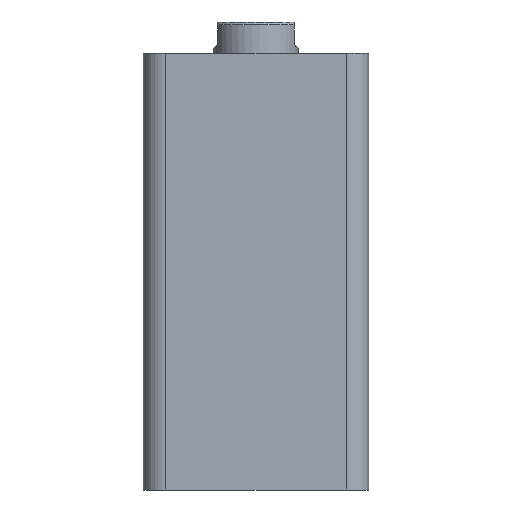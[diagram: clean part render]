
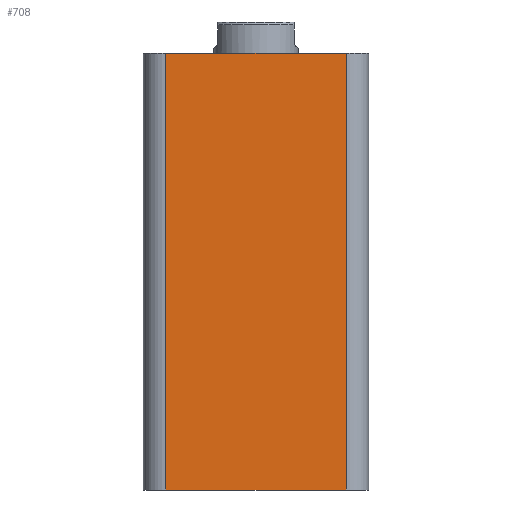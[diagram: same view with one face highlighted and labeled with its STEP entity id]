
A CAD part, front view. The second image highlights one B-rep face of the part: STEP entity #708.
In plain terms, the highlighted planar face has unit normal (0, -1, 0).
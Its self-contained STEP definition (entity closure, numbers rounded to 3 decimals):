
#312 = VECTOR ( 'NONE', #2136, 1000. ) ;
#314 = VECTOR ( 'NONE', #2138, 1000. ) ;
#315 = LINE ( 'NONE', #2137, #312 ) ;
#316 = VECTOR ( 'NONE', #2139, 1000. ) ;
#318 = VECTOR ( 'NONE', #2141, 1000. ) ;
#319 = LINE ( 'NONE', #2140, #316 ) ;
#321 = LINE ( 'NONE', #2143, #318 ) ;
#332 = LINE ( 'NONE', #2156, #314 ) ;
#405 = FACE_OUTER_BOUND ( 'NONE', #1260, .T. ) ;
#521 = VERTEX_POINT ( 'NONE', #1021 ) ;
#533 = VERTEX_POINT ( 'NONE', #1002 ) ;
#610 = VERTEX_POINT ( 'NONE', #838 ) ;
#624 = VERTEX_POINT ( 'NONE', #814 ) ;
#708 = ADVANCED_FACE ( 'NONE', ( #405 ), #2177, .F. ) ;
#814 = CARTESIAN_POINT ( 'NONE',  ( -32., -40., 0. ) ) ;
#838 = CARTESIAN_POINT ( 'NONE',  ( 32., -40., 155. ) ) ;
#1002 = CARTESIAN_POINT ( 'NONE',  ( -32., -40., 155. ) ) ;
#1021 = CARTESIAN_POINT ( 'NONE',  ( 32., -40., 0. ) ) ;
#1095 = EDGE_CURVE ( 'NONE', #533, #610, #321, .T. ) ;
#1096 = EDGE_CURVE ( 'NONE', #533, #624, #319, .T. ) ;
#1097 = EDGE_CURVE ( 'NONE', #624, #521, #332, .T. ) ;
#1098 = EDGE_CURVE ( 'NONE', #521, #610, #315, .T. ) ;
#1260 = EDGE_LOOP ( 'NONE', ( #1603, #1604, #1605, #1606 ) ) ;
#1603 = ORIENTED_EDGE ( 'NONE', *, *, #1095, .F. ) ;
#1604 = ORIENTED_EDGE ( 'NONE', *, *, #1096, .T. ) ;
#1605 = ORIENTED_EDGE ( 'NONE', *, *, #1097, .T. ) ;
#1606 = ORIENTED_EDGE ( 'NONE', *, *, #1098, .T. ) ;
#2136 = DIRECTION ( 'NONE',  ( 0., 0., 1. ) ) ;
#2137 = CARTESIAN_POINT ( 'NONE',  ( 32., -40., 155. ) ) ;
#2138 = DIRECTION ( 'NONE',  ( 1., 0., 0. ) ) ;
#2139 = DIRECTION ( 'NONE',  ( 0., 0., -1. ) ) ;
#2140 = CARTESIAN_POINT ( 'NONE',  ( -32., -40., 155. ) ) ;
#2141 = DIRECTION ( 'NONE',  ( 1., 0., 0. ) ) ;
#2143 = CARTESIAN_POINT ( 'NONE',  ( -40., -40., 155. ) ) ;
#2156 = CARTESIAN_POINT ( 'NONE',  ( -40., -40., 0. ) ) ;
#2168 = DIRECTION ( 'NONE',  ( 0., 0., 1. ) ) ;
#2174 = DIRECTION ( 'NONE',  ( 0., 1., 0. ) ) ;
#2177 = PLANE ( 'NONE',  #2512 ) ;
#2185 = CARTESIAN_POINT ( 'NONE',  ( -40., -40., 155. ) ) ;
#2512 = AXIS2_PLACEMENT_3D ( 'NONE', #2185, #2174, #2168 ) ;
